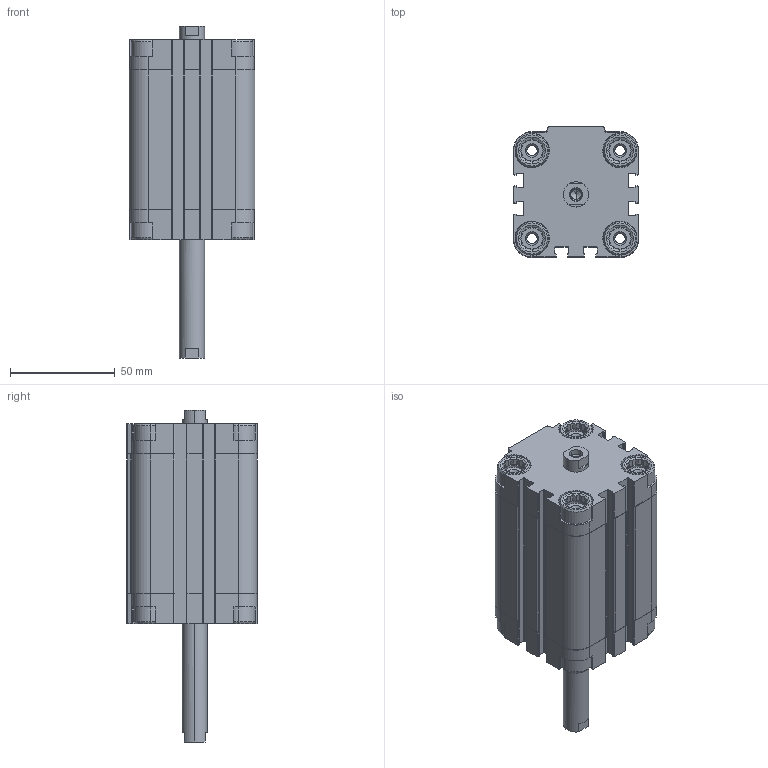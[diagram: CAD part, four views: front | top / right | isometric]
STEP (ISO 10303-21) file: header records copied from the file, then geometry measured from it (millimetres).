
FILE_DESCRIPTION (( 'STEP AP203' ), '1' );
FILE_NAME ('CDVU40-50F-P.STEP', '2020-07-24T18:15:23', ( '' ), ( '' ), 'SwSTEP 2.0', 'SolidWorks 2019', '' );
FILE_SCHEMA (( 'CONFIG_CONTROL_DESIGN' ));
Length unit declared in the file: millimetre
Products named in the file (1): CDVU40-50F-P
Bounding box: 60 x 62.5 x 158.5 mm (x, y, z)
Volume: 252186.2 mm3; surface area: 68954.8 mm2
Topology: 2 solids, 2 shells, 722 faces, 1928 edges, 1244 vertices
Faces by surface type: plane 422, cylinder 236, cone 64
Entity records: 22623 total; most frequent: CARTESIAN_POINT 4463, ORIENTED_EDGE 3840, DIRECTION 3710, EDGE_CURVE 1920, AXIS2_PLACEMENT_3D 1259, VERTEX_POINT 1244, LINE 1192, VECTOR 1192
